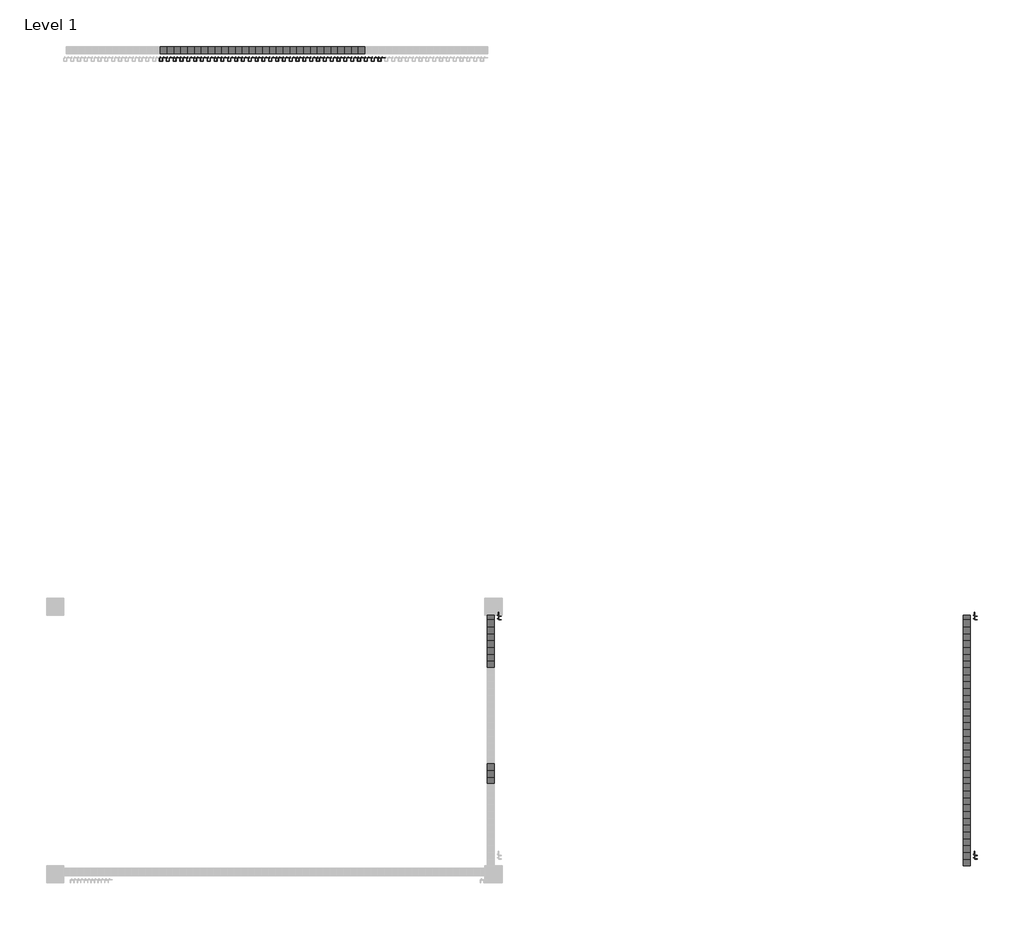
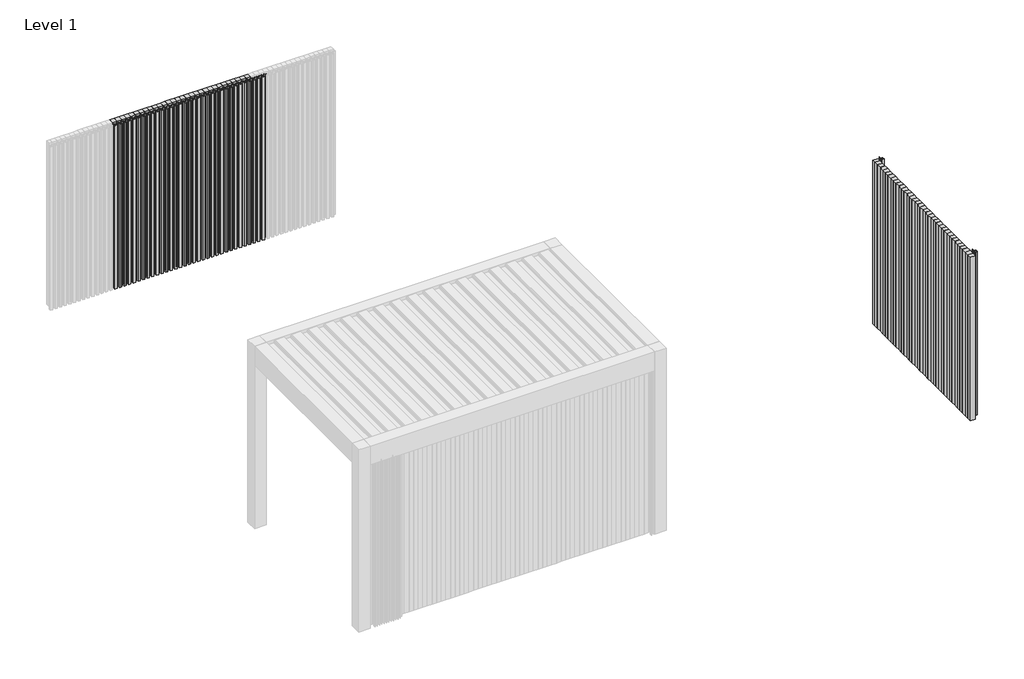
# One storey, part 3 of 69: 78 plates, 36 members.
"""IFC4 building model written with IfcOpenShell, lengths in millimetres."""

from ifc_helpers import new_model, si_unit, origin, origin_with_axes, place, context, project, spatial, polyline, outline, extrude, transform, mapped, element, save
from components import rectangular_mullion_72383e52, rectangular_mullion_a288ed38

model = new_model("IFC4")

# Units and contexts
model_context = context("Model", 3, world=origin())
ifc_project = project(units=[si_unit("LENGTHUNIT", "METRE", prefix="MILLI")], contexts=[model_context])

# Site, building, storey
site = spatial("IfcSite", under=ifc_project)
building = spatial("IfcBuilding", under=site)
storey = spatial("IfcBuildingStorey", under=building, Name="Level 1", Elevation=0.0)

# Members
placement = place(None, origin())
rectangular_mullion_shape = rectangular_mullion_72383e52(model_context)
element("IfcMember", 1, ObjectType="Rectangular Mullion : Renson_Linarte_LA-B30-01", at=placement, inside=storey, context=model_context, shape_type="MappedRepresentation", body=[
    mapped(rectangular_mullion_shape, transform((208510.5749423, 15422.7652501, 0.0), x_axis=(-1.0, 0.0, 0.0), y_axis=(0.0, 1.0, 0.0), z_axis=(0.0, 0.0, -1.0))),
])
element("IfcMember", 2, ObjectType="Rectangular Mullion : Renson_Linarte_LA-B30-01", at=placement, inside=storey, context=model_context, shape_type="MappedRepresentation", body=[
    mapped(rectangular_mullion_shape, transform((208450.5749423, 15422.7652501, 0.0), x_axis=(-1.0, 0.0, 0.0), y_axis=(0.0, 1.0, 0.0), z_axis=(0.0, 0.0, -1.0))),
])
element("IfcMember", 3, ObjectType="Rectangular Mullion : Renson_Linarte_LA-B30-01", at=placement, inside=storey, context=model_context, shape_type="MappedRepresentation", body=[
    mapped(rectangular_mullion_shape, transform((208390.5749423, 15422.7652501, 0.0), x_axis=(-1.0, 0.0, 0.0), y_axis=(0.0, 1.0, 0.0), z_axis=(0.0, 0.0, -1.0))),
])
element("IfcMember", 4, ObjectType="Rectangular Mullion : Renson_Linarte_LA-B30-01", at=placement, inside=storey, context=model_context, shape_type="MappedRepresentation", body=[
    mapped(rectangular_mullion_shape, transform((208330.5749423, 15422.7652501, 0.0), x_axis=(-1.0, 0.0, 0.0), y_axis=(0.0, 1.0, 0.0), z_axis=(0.0, 0.0, -1.0))),
])
element("IfcMember", 5, ObjectType="Rectangular Mullion : Renson_Linarte_LA-B30-01", at=placement, inside=storey, context=model_context, shape_type="MappedRepresentation", body=[
    mapped(rectangular_mullion_shape, transform((208270.5749423, 15422.7652501, 0.0), x_axis=(-1.0, 0.0, 0.0), y_axis=(0.0, 1.0, 0.0), z_axis=(0.0, 0.0, -1.0))),
])
element("IfcMember", 6, ObjectType="Rectangular Mullion : Renson_Linarte_LA-B30-01", at=placement, inside=storey, context=model_context, shape_type="MappedRepresentation", body=[
    mapped(rectangular_mullion_shape, transform((208210.5749423, 15422.7652501, 0.0), x_axis=(-1.0, 0.0, 0.0), y_axis=(0.0, 1.0, 0.0), z_axis=(0.0, 0.0, -1.0))),
])
element("IfcMember", 7, ObjectType="Rectangular Mullion : Renson_Linarte_LA-B30-01", at=placement, inside=storey, context=model_context, shape_type="MappedRepresentation", body=[
    mapped(rectangular_mullion_shape, transform((208150.5749423, 15422.7652501, 0.0), x_axis=(-1.0, 0.0, 0.0), y_axis=(0.0, 1.0, 0.0), z_axis=(0.0, 0.0, -1.0))),
])
element("IfcMember", 8, ObjectType="Rectangular Mullion : Renson_Linarte_LA-B30-01", at=placement, inside=storey, context=model_context, shape_type="MappedRepresentation", body=[
    mapped(rectangular_mullion_shape, transform((208090.5749423, 15422.7652501, 0.0), x_axis=(-1.0, 0.0, 0.0), y_axis=(0.0, 1.0, 0.0), z_axis=(0.0, 0.0, -1.0))),
])
element("IfcMember", 9, ObjectType="Rectangular Mullion : Renson_Linarte_LA-B30-01", at=placement, inside=storey, context=model_context, shape_type="MappedRepresentation", body=[
    mapped(rectangular_mullion_shape, transform((208030.5749423, 15422.7652501, 0.0), x_axis=(-1.0, 0.0, 0.0), y_axis=(0.0, 1.0, 0.0), z_axis=(0.0, 0.0, -1.0))),
])
element("IfcMember", 10, ObjectType="Rectangular Mullion : Renson_Linarte_LA-B30-01", at=placement, inside=storey, context=model_context, shape_type="MappedRepresentation", body=[
    mapped(rectangular_mullion_shape, transform((208570.5749423, 15422.7652501, 0.0), x_axis=(-1.0, 0.0, 0.0), y_axis=(0.0, 1.0, 0.0), z_axis=(0.0, 0.0, -1.0))),
])
element("IfcMember", 11, ObjectType="Rectangular Mullion : Renson_Linarte_LA-B30-01", at=placement, inside=storey, context=model_context, shape_type="MappedRepresentation", body=[
    mapped(rectangular_mullion_shape, transform((208630.5749423, 15422.7652501, 0.0), x_axis=(-1.0, 0.0, 0.0), y_axis=(0.0, 1.0, 0.0), z_axis=(0.0, 0.0, -1.0))),
])
element("IfcMember", 12, ObjectType="Rectangular Mullion : Renson_Linarte_LA-B30-01", at=placement, inside=storey, context=model_context, shape_type="MappedRepresentation", body=[
    mapped(rectangular_mullion_shape, transform((208690.5749423, 15422.7652501, 0.0), x_axis=(-1.0, 0.0, 0.0), y_axis=(0.0, 1.0, 0.0), z_axis=(0.0, 0.0, -1.0))),
])
element("IfcMember", 13, ObjectType="Rectangular Mullion : Renson_Linarte_LA-B30-01", at=placement, inside=storey, context=model_context, shape_type="MappedRepresentation", body=[
    mapped(rectangular_mullion_shape, transform((208750.5749423, 15422.7652501, 0.0), x_axis=(-1.0, 0.0, 0.0), y_axis=(0.0, 1.0, 0.0), z_axis=(0.0, 0.0, -1.0))),
])
element("IfcMember", 14, ObjectType="Rectangular Mullion : Renson_Linarte_LA-B30-01", at=placement, inside=storey, context=model_context, shape_type="MappedRepresentation", body=[
    mapped(rectangular_mullion_shape, transform((208810.5749423, 15422.7652501, 0.0), x_axis=(-1.0, 0.0, 0.0), y_axis=(0.0, 1.0, 0.0), z_axis=(0.0, 0.0, -1.0))),
])
element("IfcMember", 15, ObjectType="Rectangular Mullion : Renson_Linarte_LA-B30-01", at=placement, inside=storey, context=model_context, shape_type="MappedRepresentation", body=[
    mapped(rectangular_mullion_shape, transform((208870.5749423, 15422.7652501, 0.0), x_axis=(-1.0, 0.0, 0.0), y_axis=(0.0, 1.0, 0.0), z_axis=(0.0, 0.0, -1.0))),
])
element("IfcMember", 16, ObjectType="Rectangular Mullion : Renson_Linarte_LA-B30-01", at=placement, inside=storey, context=model_context, shape_type="MappedRepresentation", body=[
    mapped(rectangular_mullion_shape, transform((208930.5749423, 15422.7652501, 0.0), x_axis=(-1.0, 0.0, 0.0), y_axis=(0.0, 1.0, 0.0), z_axis=(0.0, 0.0, -1.0))),
])
element("IfcMember", 17, ObjectType="Rectangular Mullion : Renson_Linarte_LA-B30-01", at=placement, inside=storey, context=model_context, shape_type="MappedRepresentation", body=[
    mapped(rectangular_mullion_shape, transform((208990.5749423, 15422.7652501, 0.0), x_axis=(-1.0, 0.0, 0.0), y_axis=(0.0, 1.0, 0.0), z_axis=(0.0, 0.0, -1.0))),
])
element("IfcMember", 18, ObjectType="Rectangular Mullion : Renson_Linarte_LA-B30-01", at=placement, inside=storey, context=model_context, shape_type="MappedRepresentation", body=[
    mapped(rectangular_mullion_shape, transform((209050.5749423, 15422.7652501, 0.0), x_axis=(-1.0, 0.0, 0.0), y_axis=(0.0, 1.0, 0.0), z_axis=(0.0, 0.0, -1.0))),
])
element("IfcMember", 19, ObjectType="Rectangular Mullion : Renson_Linarte_LA-B30-01", at=placement, inside=storey, context=model_context, shape_type="MappedRepresentation", body=[
    mapped(rectangular_mullion_shape, transform((209110.5749423, 15422.7652501, 0.0), x_axis=(-1.0, 0.0, 0.0), y_axis=(0.0, 1.0, 0.0), z_axis=(0.0, 0.0, -1.0))),
])
element("IfcMember", 20, ObjectType="Rectangular Mullion : Renson_Linarte_LA-B30-01", at=placement, inside=storey, context=model_context, shape_type="MappedRepresentation", body=[
    mapped(rectangular_mullion_shape, transform((209170.5749423, 15422.7652501, 0.0), x_axis=(-1.0, 0.0, 0.0), y_axis=(0.0, 1.0, 0.0), z_axis=(0.0, 0.0, -1.0))),
])
element("IfcMember", 21, ObjectType="Rectangular Mullion : Renson_Linarte_LA-B30-01", at=placement, inside=storey, context=model_context, shape_type="MappedRepresentation", body=[
    mapped(rectangular_mullion_shape, transform((209230.5749423, 15422.7652501, 0.0), x_axis=(-1.0, 0.0, 0.0), y_axis=(0.0, 1.0, 0.0), z_axis=(0.0, 0.0, -1.0))),
])
element("IfcMember", 22, ObjectType="Rectangular Mullion : Renson_Linarte_LA-B30-01", at=placement, inside=storey, context=model_context, shape_type="MappedRepresentation", body=[
    mapped(rectangular_mullion_shape, transform((209290.5749423, 15422.7652501, 0.0), x_axis=(-1.0, 0.0, 0.0), y_axis=(0.0, 1.0, 0.0), z_axis=(0.0, 0.0, -1.0))),
])
element("IfcMember", 23, ObjectType="Rectangular Mullion : Renson_Linarte_LA-B30-01", at=placement, inside=storey, context=model_context, shape_type="MappedRepresentation", body=[
    mapped(rectangular_mullion_shape, transform((209350.5749423, 15422.7652501, 0.0), x_axis=(-1.0, 0.0, 0.0), y_axis=(0.0, 1.0, 0.0), z_axis=(0.0, 0.0, -1.0))),
])
element("IfcMember", 24, ObjectType="Rectangular Mullion : Renson_Linarte_LA-B30-01", at=placement, inside=storey, context=model_context, shape_type="MappedRepresentation", body=[
    mapped(rectangular_mullion_shape, transform((209410.5749423, 15422.7652501, 0.0), x_axis=(-1.0, 0.0, 0.0), y_axis=(0.0, 1.0, 0.0), z_axis=(0.0, 0.0, -1.0))),
])
element("IfcMember", 25, ObjectType="Rectangular Mullion : Renson_Linarte_LA-B30-01", at=placement, inside=storey, context=model_context, shape_type="MappedRepresentation", body=[
    mapped(rectangular_mullion_shape, transform((209470.5749423, 15422.7652501, 0.0), x_axis=(-1.0, 0.0, 0.0), y_axis=(0.0, 1.0, 0.0), z_axis=(0.0, 0.0, -1.0))),
])
element("IfcMember", 26, ObjectType="Rectangular Mullion : Renson_Linarte_LA-B30-01", at=placement, inside=storey, context=model_context, shape_type="MappedRepresentation", body=[
    mapped(rectangular_mullion_shape, transform((209530.5749423, 15422.7652501, 0.0), x_axis=(-1.0, 0.0, 0.0), y_axis=(0.0, 1.0, 0.0), z_axis=(0.0, 0.0, -1.0))),
])
element("IfcMember", 27, ObjectType="Rectangular Mullion : Renson_Linarte_LA-B30-01", at=placement, inside=storey, context=model_context, shape_type="MappedRepresentation", body=[
    mapped(rectangular_mullion_shape, transform((209590.5749423, 15422.7652501, 0.0), x_axis=(-1.0, 0.0, 0.0), y_axis=(0.0, 1.0, 0.0), z_axis=(0.0, 0.0, -1.0))),
])
element("IfcMember", 28, ObjectType="Rectangular Mullion : Renson_Linarte_LA-B30-01", at=placement, inside=storey, context=model_context, shape_type="MappedRepresentation", body=[
    mapped(rectangular_mullion_shape, transform((209650.5749423, 15422.7652501, 0.0), x_axis=(-1.0, 0.0, 0.0), y_axis=(0.0, 1.0, 0.0), z_axis=(0.0, 0.0, -1.0))),
])
element("IfcMember", 29, ObjectType="Rectangular Mullion : Renson_Linarte_LA-B30-01", at=placement, inside=storey, context=model_context, shape_type="MappedRepresentation", body=[
    mapped(rectangular_mullion_shape, transform((209710.5749423, 15422.7652501, 0.0), x_axis=(-1.0, 0.0, 0.0), y_axis=(0.0, 1.0, 0.0), z_axis=(0.0, 0.0, -1.0))),
])
element("IfcMember", 30, ObjectType="Rectangular Mullion : Renson_Linarte_LA-B30-01", at=placement, inside=storey, context=model_context, shape_type="MappedRepresentation", body=[
    mapped(rectangular_mullion_shape, transform((209770.5749423, 15422.7652501, 0.0), x_axis=(-1.0, 0.0, 0.0), y_axis=(0.0, 1.0, 0.0), z_axis=(0.0, 0.0, -1.0))),
])
element("IfcMember", 31, ObjectType="Rectangular Mullion : Renson_Linarte_LA-B30-01", at=placement, inside=storey, context=model_context, shape_type="MappedRepresentation", body=[
    mapped(rectangular_mullion_shape, transform((209830.5749423, 15422.7652501, 0.0), x_axis=(-1.0, 0.0, 0.0), y_axis=(0.0, 1.0, 0.0), z_axis=(0.0, 0.0, -1.0))),
])
element("IfcMember", 32, ObjectType="Rectangular Mullion : Renson_Linarte_LA-B30-01", at=placement, inside=storey, context=model_context, shape_type="MappedRepresentation", body=[
    mapped(rectangular_mullion_shape, transform((209890.5749423, 15422.7652501, 0.0), x_axis=(-1.0, 0.0, 0.0), y_axis=(0.0, 1.0, 0.0), z_axis=(0.0, 0.0, -1.0))),
])
element("IfcMember", 33, ObjectType="Rectangular Mullion : Renson_Linarte_LA-B30-01", at=placement, inside=storey, context=model_context, shape_type="MappedRepresentation", body=[
    mapped(rectangular_mullion_shape, transform((209950.5749423, 15422.7652501, 0.0), x_axis=(-1.0, 0.0, 0.0), y_axis=(0.0, 1.0, 0.0), z_axis=(0.0, 0.0, -1.0))),
])
rectangular_mullion_2_shape = rectangular_mullion_a288ed38(model_context)
element("IfcMember", 34, ObjectType="Rectangular Mullion : Renson_Linarte_LA-E25-01", at=placement, inside=storey, context=model_context, shape_type="MappedRepresentation", body=[
    mapped(rectangular_mullion_2_shape, transform((215057.0900207, 10419.7218195, 0.0), x_axis=(0.0, 1.0, 0.0), y_axis=(1.0, 0.0, 0.0), z_axis=(0.0, 0.0, -1.0))),
])
element("IfcMember", 35, ObjectType="Rectangular Mullion : Renson_Linarte_LA-E25-01", at=placement, inside=storey, context=model_context, shape_type="MappedRepresentation", body=[
    mapped(rectangular_mullion_2_shape, transform((215057.0900207, 8319.7218195, 0.0), x_axis=(0.0, 1.0, 0.0), y_axis=(1.0, 0.0, 0.0), z_axis=(0.0, 0.0, -1.0))),
])
element("IfcMember", 36, ObjectType="Rectangular Mullion : Renson_Linarte_LA-E25-01", at=placement, inside=storey, context=model_context, shape_type="MappedRepresentation", body=[
    mapped(rectangular_mullion_2_shape, transform((210877.0900207, 10419.7218195, 0.0), x_axis=(0.0, 1.0, 0.0), y_axis=(1.0, 0.0, 0.0), z_axis=(0.0, 0.0, -1.0))),
])

# Plates
element("IfcPlate", 37, ObjectType="Base - 64mm", at=placement, inside=storey, context=model_context, shape_type="SweptSolid", body=[
    extrude(outline(polyline([(207970.5749423, 15454.7652501), (208030.5749423, 15454.7652501), (208030.5749423, 15390.7652501), (207970.5749423, 15390.7652501), (207970.5749423, 15454.7652501)])), origin_with_axes(), (0.0, 0.0, 1.0), 2250.0),
])
element("IfcPlate", 38, ObjectType="Base - 64mm", at=placement, inside=storey, context=model_context, shape_type="SweptSolid", body=[
    extrude(outline(polyline([(208030.5749423, 15454.7652501), (208090.5749423, 15454.7652501), (208090.5749423, 15390.7652501), (208030.5749423, 15390.7652501), (208030.5749423, 15454.7652501)])), origin_with_axes(), (0.0, 0.0, 1.0), 2250.0),
])
element("IfcPlate", 39, ObjectType="Base - 64mm", at=placement, inside=storey, context=model_context, shape_type="SweptSolid", body=[
    extrude(outline(polyline([(208090.5749423, 15454.7652501), (208150.5749423, 15454.7652501), (208150.5749423, 15390.7652501), (208090.5749423, 15390.7652501), (208090.5749423, 15454.7652501)])), origin_with_axes(), (0.0, 0.0, 1.0), 2250.0),
])
element("IfcPlate", 40, ObjectType="Base - 64mm", at=placement, inside=storey, context=model_context, shape_type="SweptSolid", body=[
    extrude(outline(polyline([(208150.5749423, 15454.7652501), (208210.5749423, 15454.7652501), (208210.5749423, 15390.7652501), (208150.5749423, 15390.7652501), (208150.5749423, 15454.7652501)])), origin_with_axes(), (0.0, 0.0, 1.0), 2250.0),
])
element("IfcPlate", 41, ObjectType="Base - 64mm", at=placement, inside=storey, context=model_context, shape_type="SweptSolid", body=[
    extrude(outline(polyline([(208210.5749423, 15454.7652501), (208270.5749423, 15454.7652501), (208270.5749423, 15390.7652501), (208210.5749423, 15390.7652501), (208210.5749423, 15454.7652501)])), origin_with_axes(), (0.0, 0.0, 1.0), 2250.0),
])
element("IfcPlate", 42, ObjectType="Base - 64mm", at=placement, inside=storey, context=model_context, shape_type="SweptSolid", body=[
    extrude(outline(polyline([(208270.5749423, 15454.7652501), (208330.5749423, 15454.7652501), (208330.5749423, 15390.7652501), (208270.5749423, 15390.7652501), (208270.5749423, 15454.7652501)])), origin_with_axes(), (0.0, 0.0, 1.0), 2250.0),
])
element("IfcPlate", 43, ObjectType="Base - 64mm", at=placement, inside=storey, context=model_context, shape_type="SweptSolid", body=[
    extrude(outline(polyline([(208330.5749423, 15454.7652501), (208390.5749423, 15454.7652501), (208390.5749423, 15390.7652501), (208330.5749423, 15390.7652501), (208330.5749423, 15454.7652501)])), origin_with_axes(), (0.0, 0.0, 1.0), 2250.0),
])
element("IfcPlate", 44, ObjectType="Base - 64mm", at=placement, inside=storey, context=model_context, shape_type="SweptSolid", body=[
    extrude(outline(polyline([(208390.5749423, 15454.7652501), (208450.5749423, 15454.7652501), (208450.5749423, 15390.7652501), (208390.5749423, 15390.7652501), (208390.5749423, 15454.7652501)])), origin_with_axes(), (0.0, 0.0, 1.0), 2250.0),
])
element("IfcPlate", 45, ObjectType="Base - 64mm", at=placement, inside=storey, context=model_context, shape_type="SweptSolid", body=[
    extrude(outline(polyline([(208450.5749423, 15454.7652501), (208510.5749423, 15454.7652501), (208510.5749423, 15390.7652501), (208450.5749423, 15390.7652501), (208450.5749423, 15454.7652501)])), origin_with_axes(), (0.0, 0.0, 1.0), 2250.0),
])
element("IfcPlate", 46, ObjectType="Base - 64mm", at=placement, inside=storey, context=model_context, shape_type="SweptSolid", body=[
    extrude(outline(polyline([(208510.5749423, 15454.7652501), (208570.5749423, 15454.7652501), (208570.5749423, 15390.7652501), (208510.5749423, 15390.7652501), (208510.5749423, 15454.7652501)])), origin_with_axes(), (0.0, 0.0, 1.0), 2250.0),
])
element("IfcPlate", 47, ObjectType="Base - 64mm", at=placement, inside=storey, context=model_context, shape_type="SweptSolid", body=[
    extrude(outline(polyline([(208570.5749423, 15454.7652501), (208630.5749423, 15454.7652501), (208630.5749423, 15390.7652501), (208570.5749423, 15390.7652501), (208570.5749423, 15454.7652501)])), origin_with_axes(), (0.0, 0.0, 1.0), 2250.0),
])
element("IfcPlate", 48, ObjectType="Base - 64mm", at=placement, inside=storey, context=model_context, shape_type="SweptSolid", body=[
    extrude(outline(polyline([(208630.5749423, 15454.7652501), (208690.5749423, 15454.7652501), (208690.5749423, 15390.7652501), (208630.5749423, 15390.7652501), (208630.5749423, 15454.7652501)])), origin_with_axes(), (0.0, 0.0, 1.0), 2250.0),
])
element("IfcPlate", 49, ObjectType="Base - 64mm", at=placement, inside=storey, context=model_context, shape_type="SweptSolid", body=[
    extrude(outline(polyline([(208690.5749423, 15454.7652501), (208750.5749423, 15454.7652501), (208750.5749423, 15390.7652501), (208690.5749423, 15390.7652501), (208690.5749423, 15454.7652501)])), origin_with_axes(), (0.0, 0.0, 1.0), 2250.0),
])
element("IfcPlate", 50, ObjectType="Base - 64mm", at=placement, inside=storey, context=model_context, shape_type="SweptSolid", body=[
    extrude(outline(polyline([(208750.5749423, 15454.7652501), (208810.5749423, 15454.7652501), (208810.5749423, 15390.7652501), (208750.5749423, 15390.7652501), (208750.5749423, 15454.7652501)])), origin_with_axes(), (0.0, 0.0, 1.0), 2250.0),
])
element("IfcPlate", 51, ObjectType="Base - 64mm", at=placement, inside=storey, context=model_context, shape_type="SweptSolid", body=[
    extrude(outline(polyline([(208810.5749423, 15454.7652501), (208870.5749423, 15454.7652501), (208870.5749423, 15390.7652501), (208810.5749423, 15390.7652501), (208810.5749423, 15454.7652501)])), origin_with_axes(), (0.0, 0.0, 1.0), 2250.0),
])
element("IfcPlate", 52, ObjectType="Base - 64mm", at=placement, inside=storey, context=model_context, shape_type="SweptSolid", body=[
    extrude(outline(polyline([(208870.5749423, 15454.7652501), (208930.5749423, 15454.7652501), (208930.5749423, 15390.7652501), (208870.5749423, 15390.7652501), (208870.5749423, 15454.7652501)])), origin_with_axes(), (0.0, 0.0, 1.0), 2250.0),
])
element("IfcPlate", 53, ObjectType="Base - 64mm", at=placement, inside=storey, context=model_context, shape_type="SweptSolid", body=[
    extrude(outline(polyline([(208930.5749423, 15454.7652501), (208990.5749423, 15454.7652501), (208990.5749423, 15390.7652501), (208930.5749423, 15390.7652501), (208930.5749423, 15454.7652501)])), origin_with_axes(), (0.0, 0.0, 1.0), 2250.0),
])
element("IfcPlate", 54, ObjectType="Base - 64mm", at=placement, inside=storey, context=model_context, shape_type="SweptSolid", body=[
    extrude(outline(polyline([(208990.5749423, 15454.7652501), (209050.5749423, 15454.7652501), (209050.5749423, 15390.7652501), (208990.5749423, 15390.7652501), (208990.5749423, 15454.7652501)])), origin_with_axes(), (0.0, 0.0, 1.0), 2250.0),
])
element("IfcPlate", 55, ObjectType="Base - 64mm", at=placement, inside=storey, context=model_context, shape_type="SweptSolid", body=[
    extrude(outline(polyline([(209050.5749423, 15454.7652501), (209110.5749423, 15454.7652501), (209110.5749423, 15390.7652501), (209050.5749423, 15390.7652501), (209050.5749423, 15454.7652501)])), origin_with_axes(), (0.0, 0.0, 1.0), 2250.0),
])
element("IfcPlate", 56, ObjectType="Base - 64mm", at=placement, inside=storey, context=model_context, shape_type="SweptSolid", body=[
    extrude(outline(polyline([(209110.5749423, 15454.7652501), (209170.5749423, 15454.7652501), (209170.5749423, 15390.7652501), (209110.5749423, 15390.7652501), (209110.5749423, 15454.7652501)])), origin_with_axes(), (0.0, 0.0, 1.0), 2250.0),
])
element("IfcPlate", 57, ObjectType="Base - 64mm", at=placement, inside=storey, context=model_context, shape_type="SweptSolid", body=[
    extrude(outline(polyline([(209170.5749423, 15454.7652501), (209230.5749423, 15454.7652501), (209230.5749423, 15390.7652501), (209170.5749423, 15390.7652501), (209170.5749423, 15454.7652501)])), origin_with_axes(), (0.0, 0.0, 1.0), 2250.0),
])
element("IfcPlate", 58, ObjectType="Base - 64mm", at=placement, inside=storey, context=model_context, shape_type="SweptSolid", body=[
    extrude(outline(polyline([(209230.5749423, 15454.7652501), (209290.5749423, 15454.7652501), (209290.5749423, 15390.7652501), (209230.5749423, 15390.7652501), (209230.5749423, 15454.7652501)])), origin_with_axes(), (0.0, 0.0, 1.0), 2250.0),
])
element("IfcPlate", 59, ObjectType="Base - 64mm", at=placement, inside=storey, context=model_context, shape_type="SweptSolid", body=[
    extrude(outline(polyline([(209290.5749423, 15454.7652501), (209350.5749423, 15454.7652501), (209350.5749423, 15390.7652501), (209290.5749423, 15390.7652501), (209290.5749423, 15454.7652501)])), origin_with_axes(), (0.0, 0.0, 1.0), 2250.0),
])
element("IfcPlate", 60, ObjectType="Base - 64mm", at=placement, inside=storey, context=model_context, shape_type="SweptSolid", body=[
    extrude(outline(polyline([(209350.5749423, 15454.7652501), (209410.5749423, 15454.7652501), (209410.5749423, 15390.7652501), (209350.5749423, 15390.7652501), (209350.5749423, 15454.7652501)])), origin_with_axes(), (0.0, 0.0, 1.0), 2250.0),
])
element("IfcPlate", 61, ObjectType="Base - 64mm", at=placement, inside=storey, context=model_context, shape_type="SweptSolid", body=[
    extrude(outline(polyline([(209410.5749423, 15454.7652501), (209470.5749423, 15454.7652501), (209470.5749423, 15390.7652501), (209410.5749423, 15390.7652501), (209410.5749423, 15454.7652501)])), origin_with_axes(), (0.0, 0.0, 1.0), 2250.0),
])
element("IfcPlate", 62, ObjectType="Base - 64mm", at=placement, inside=storey, context=model_context, shape_type="SweptSolid", body=[
    extrude(outline(polyline([(209470.5749423, 15454.7652501), (209530.5749423, 15454.7652501), (209530.5749423, 15390.7652501), (209470.5749423, 15390.7652501), (209470.5749423, 15454.7652501)])), origin_with_axes(), (0.0, 0.0, 1.0), 2250.0),
])
element("IfcPlate", 63, ObjectType="Base - 64mm", at=placement, inside=storey, context=model_context, shape_type="SweptSolid", body=[
    extrude(outline(polyline([(209530.5749423, 15454.7652501), (209590.5749423, 15454.7652501), (209590.5749423, 15390.7652501), (209530.5749423, 15390.7652501), (209530.5749423, 15454.7652501)])), origin_with_axes(), (0.0, 0.0, 1.0), 2250.0),
])
element("IfcPlate", 64, ObjectType="Base - 64mm", at=placement, inside=storey, context=model_context, shape_type="SweptSolid", body=[
    extrude(outline(polyline([(209590.5749423, 15454.7652501), (209650.5749423, 15454.7652501), (209650.5749423, 15390.7652501), (209590.5749423, 15390.7652501), (209590.5749423, 15454.7652501)])), origin_with_axes(), (0.0, 0.0, 1.0), 2250.0),
])
element("IfcPlate", 65, ObjectType="Base - 64mm", at=placement, inside=storey, context=model_context, shape_type="SweptSolid", body=[
    extrude(outline(polyline([(209650.5749423, 15454.7652501), (209710.5749423, 15454.7652501), (209710.5749423, 15390.7652501), (209650.5749423, 15390.7652501), (209650.5749423, 15454.7652501)])), origin_with_axes(), (0.0, 0.0, 1.0), 2250.0),
])
element("IfcPlate", 66, ObjectType="Base - 64mm", at=placement, inside=storey, context=model_context, shape_type="SweptSolid", body=[
    extrude(outline(polyline([(209710.5749423, 15454.7652501), (209770.5749423, 15454.7652501), (209770.5749423, 15390.7652501), (209710.5749423, 15390.7652501), (209710.5749423, 15454.7652501)])), origin_with_axes(), (0.0, 0.0, 1.0), 2250.0),
])
element("IfcPlate", 67, ObjectType="Base - 64mm", at=placement, inside=storey, context=model_context, shape_type="SweptSolid", body=[
    extrude(outline(polyline([(215089.0900207, 10419.7218195), (215089.0900207, 10359.7218195), (215025.0900207, 10359.7218195), (215025.0900207, 10419.7218195), (215089.0900207, 10419.7218195)])), origin_with_axes(), (0.0, 0.0, 1.0), 2250.0),
])
element("IfcPlate", 68, ObjectType="Base - 64mm", at=placement, inside=storey, context=model_context, shape_type="SweptSolid", body=[
    extrude(outline(polyline([(215089.0900207, 10359.7218195), (215089.0900207, 10299.7218195), (215025.0900207, 10299.7218195), (215025.0900207, 10359.7218195), (215089.0900207, 10359.7218195)])), origin_with_axes(), (0.0, 0.0, 1.0), 2250.0),
])
element("IfcPlate", 69, ObjectType="Base - 64mm", at=placement, inside=storey, context=model_context, shape_type="SweptSolid", body=[
    extrude(outline(polyline([(215089.0900207, 10299.7218195), (215089.0900207, 10239.7218195), (215025.0900207, 10239.7218195), (215025.0900207, 10299.7218195), (215089.0900207, 10299.7218195)])), origin_with_axes(), (0.0, 0.0, 1.0), 2250.0),
])
element("IfcPlate", 70, ObjectType="Base - 64mm", at=placement, inside=storey, context=model_context, shape_type="SweptSolid", body=[
    extrude(outline(polyline([(215089.0900207, 10239.7218195), (215089.0900207, 10179.7218195), (215025.0900207, 10179.7218195), (215025.0900207, 10239.7218195), (215089.0900207, 10239.7218195)])), origin_with_axes(), (0.0, 0.0, 1.0), 2250.0),
])
element("IfcPlate", 71, ObjectType="Base - 64mm", at=placement, inside=storey, context=model_context, shape_type="SweptSolid", body=[
    extrude(outline(polyline([(215089.0900207, 10179.7218195), (215089.0900207, 10119.7218195), (215025.0900207, 10119.7218195), (215025.0900207, 10179.7218195), (215089.0900207, 10179.7218195)])), origin_with_axes(), (0.0, 0.0, 1.0), 2250.0),
])
element("IfcPlate", 72, ObjectType="Base - 64mm", at=placement, inside=storey, context=model_context, shape_type="SweptSolid", body=[
    extrude(outline(polyline([(215089.0900207, 10119.7218195), (215089.0900207, 10059.7218195), (215025.0900207, 10059.7218195), (215025.0900207, 10119.7218195), (215089.0900207, 10119.7218195)])), origin_with_axes(), (0.0, 0.0, 1.0), 2250.0),
])
element("IfcPlate", 73, ObjectType="Base - 64mm", at=placement, inside=storey, context=model_context, shape_type="SweptSolid", body=[
    extrude(outline(polyline([(215089.0900207, 10059.7218195), (215089.0900207, 9999.7218195), (215025.0900207, 9999.7218195), (215025.0900207, 10059.7218195), (215089.0900207, 10059.7218195)])), origin_with_axes(), (0.0, 0.0, 1.0), 2250.0),
])
element("IfcPlate", 74, ObjectType="Base - 64mm", at=placement, inside=storey, context=model_context, shape_type="SweptSolid", body=[
    extrude(outline(polyline([(215089.0900207, 9999.7218195), (215089.0900207, 9939.7218195), (215025.0900207, 9939.7218195), (215025.0900207, 9999.7218195), (215089.0900207, 9999.7218195)])), origin_with_axes(), (0.0, 0.0, 1.0), 2250.0),
])
element("IfcPlate", 75, ObjectType="Base - 64mm", at=placement, inside=storey, context=model_context, shape_type="SweptSolid", body=[
    extrude(outline(polyline([(215089.0900207, 9939.7218195), (215089.0900207, 9879.7218195), (215025.0900207, 9879.7218195), (215025.0900207, 9939.7218195), (215089.0900207, 9939.7218195)])), origin_with_axes(), (0.0, 0.0, 1.0), 2250.0),
])
element("IfcPlate", 76, ObjectType="Base - 64mm", at=placement, inside=storey, context=model_context, shape_type="SweptSolid", body=[
    extrude(outline(polyline([(215089.0900207, 9879.7218195), (215089.0900207, 9819.7218195), (215025.0900207, 9819.7218195), (215025.0900207, 9879.7218195), (215089.0900207, 9879.7218195)])), origin_with_axes(), (0.0, 0.0, 1.0), 2250.0),
])
element("IfcPlate", 77, ObjectType="Base - 64mm", at=placement, inside=storey, context=model_context, shape_type="SweptSolid", body=[
    extrude(outline(polyline([(215089.0900207, 9819.7218195), (215089.0900207, 9759.7218195), (215025.0900207, 9759.7218195), (215025.0900207, 9819.7218195), (215089.0900207, 9819.7218195)])), origin_with_axes(), (0.0, 0.0, 1.0), 2250.0),
])
element("IfcPlate", 78, ObjectType="Base - 64mm", at=placement, inside=storey, context=model_context, shape_type="SweptSolid", body=[
    extrude(outline(polyline([(215089.0900207, 9759.7218195), (215089.0900207, 9699.7218195), (215025.0900207, 9699.7218195), (215025.0900207, 9759.7218195), (215089.0900207, 9759.7218195)])), origin_with_axes(), (0.0, 0.0, 1.0), 2250.0),
])
element("IfcPlate", 79, ObjectType="Base - 64mm", at=placement, inside=storey, context=model_context, shape_type="SweptSolid", body=[
    extrude(outline(polyline([(215089.0900207, 9699.7218195), (215089.0900207, 9639.7218195), (215025.0900207, 9639.7218195), (215025.0900207, 9699.7218195), (215089.0900207, 9699.7218195)])), origin_with_axes(), (0.0, 0.0, 1.0), 2250.0),
])
element("IfcPlate", 80, ObjectType="Base - 64mm", at=placement, inside=storey, context=model_context, shape_type="SweptSolid", body=[
    extrude(outline(polyline([(215089.0900207, 9639.7218195), (215089.0900207, 9579.7218195), (215025.0900207, 9579.7218195), (215025.0900207, 9639.7218195), (215089.0900207, 9639.7218195)])), origin_with_axes(), (0.0, 0.0, 1.0), 2250.0),
])
element("IfcPlate", 81, ObjectType="Base - 64mm", at=placement, inside=storey, context=model_context, shape_type="SweptSolid", body=[
    extrude(outline(polyline([(215089.0900207, 9579.7218195), (215089.0900207, 9519.7218195), (215025.0900207, 9519.7218195), (215025.0900207, 9579.7218195), (215089.0900207, 9579.7218195)])), origin_with_axes(), (0.0, 0.0, 1.0), 2250.0),
])
element("IfcPlate", 82, ObjectType="Base - 64mm", at=placement, inside=storey, context=model_context, shape_type="SweptSolid", body=[
    extrude(outline(polyline([(215089.0900207, 9519.7218195), (215089.0900207, 9459.7218195), (215025.0900207, 9459.7218195), (215025.0900207, 9519.7218195), (215089.0900207, 9519.7218195)])), origin_with_axes(), (0.0, 0.0, 1.0), 2250.0),
])
element("IfcPlate", 83, ObjectType="Base - 64mm", at=placement, inside=storey, context=model_context, shape_type="SweptSolid", body=[
    extrude(outline(polyline([(215089.0900207, 9459.7218195), (215089.0900207, 9399.7218195), (215025.0900207, 9399.7218195), (215025.0900207, 9459.7218195), (215089.0900207, 9459.7218195)])), origin_with_axes(), (0.0, 0.0, 1.0), 2250.0),
])
element("IfcPlate", 84, ObjectType="Base - 64mm", at=placement, inside=storey, context=model_context, shape_type="SweptSolid", body=[
    extrude(outline(polyline([(215089.0900207, 9399.7218195), (215089.0900207, 9339.7218195), (215025.0900207, 9339.7218195), (215025.0900207, 9399.7218195), (215089.0900207, 9399.7218195)])), origin_with_axes(), (0.0, 0.0, 1.0), 2250.0),
])
element("IfcPlate", 85, ObjectType="Base - 64mm", at=placement, inside=storey, context=model_context, shape_type="SweptSolid", body=[
    extrude(outline(polyline([(215089.0900207, 9339.7218195), (215089.0900207, 9279.7218195), (215025.0900207, 9279.7218195), (215025.0900207, 9339.7218195), (215089.0900207, 9339.7218195)])), origin_with_axes(), (0.0, 0.0, 1.0), 2250.0),
])
element("IfcPlate", 86, ObjectType="Base - 64mm", at=placement, inside=storey, context=model_context, shape_type="SweptSolid", body=[
    extrude(outline(polyline([(215089.0900207, 9279.7218195), (215089.0900207, 9219.7218195), (215025.0900207, 9219.7218195), (215025.0900207, 9279.7218195), (215089.0900207, 9279.7218195)])), origin_with_axes(), (0.0, 0.0, 1.0), 2250.0),
])
element("IfcPlate", 87, ObjectType="Base - 64mm", at=placement, inside=storey, context=model_context, shape_type="SweptSolid", body=[
    extrude(outline(polyline([(215089.0900207, 9219.7218195), (215089.0900207, 9159.7218195), (215025.0900207, 9159.7218195), (215025.0900207, 9219.7218195), (215089.0900207, 9219.7218195)])), origin_with_axes(), (0.0, 0.0, 1.0), 2250.0),
])
element("IfcPlate", 88, ObjectType="Base - 64mm", at=placement, inside=storey, context=model_context, shape_type="SweptSolid", body=[
    extrude(outline(polyline([(215089.0900207, 9159.7218195), (215089.0900207, 9099.7218195), (215025.0900207, 9099.7218195), (215025.0900207, 9159.7218195), (215089.0900207, 9159.7218195)])), origin_with_axes(), (0.0, 0.0, 1.0), 2250.0),
])
element("IfcPlate", 89, ObjectType="Base - 64mm", at=placement, inside=storey, context=model_context, shape_type="SweptSolid", body=[
    extrude(outline(polyline([(215089.0900207, 9099.7218195), (215089.0900207, 9039.7218195), (215025.0900207, 9039.7218195), (215025.0900207, 9099.7218195), (215089.0900207, 9099.7218195)])), origin_with_axes(), (0.0, 0.0, 1.0), 2250.0),
])
element("IfcPlate", 90, ObjectType="Base - 64mm", at=placement, inside=storey, context=model_context, shape_type="SweptSolid", body=[
    extrude(outline(polyline([(215089.0900207, 9039.7218195), (215089.0900207, 8979.7218195), (215025.0900207, 8979.7218195), (215025.0900207, 9039.7218195), (215089.0900207, 9039.7218195)])), origin_with_axes(), (0.0, 0.0, 1.0), 2250.0),
])
element("IfcPlate", 91, ObjectType="Base - 64mm", at=placement, inside=storey, context=model_context, shape_type="SweptSolid", body=[
    extrude(outline(polyline([(215089.0900207, 8979.7218195), (215089.0900207, 8919.7218195), (215025.0900207, 8919.7218195), (215025.0900207, 8979.7218195), (215089.0900207, 8979.7218195)])), origin_with_axes(), (0.0, 0.0, 1.0), 2250.0),
])
element("IfcPlate", 92, ObjectType="Base - 64mm", at=placement, inside=storey, context=model_context, shape_type="SweptSolid", body=[
    extrude(outline(polyline([(215089.0900207, 8919.7218195), (215089.0900207, 8859.7218195), (215025.0900207, 8859.7218195), (215025.0900207, 8919.7218195), (215089.0900207, 8919.7218195)])), origin_with_axes(), (0.0, 0.0, 1.0), 2250.0),
])
element("IfcPlate", 93, ObjectType="Base - 64mm", at=placement, inside=storey, context=model_context, shape_type="SweptSolid", body=[
    extrude(outline(polyline([(215089.0900207, 8859.7218195), (215089.0900207, 8799.7218195), (215025.0900207, 8799.7218195), (215025.0900207, 8859.7218195), (215089.0900207, 8859.7218195)])), origin_with_axes(), (0.0, 0.0, 1.0), 2250.0),
])
element("IfcPlate", 94, ObjectType="Base - 64mm", at=placement, inside=storey, context=model_context, shape_type="SweptSolid", body=[
    extrude(outline(polyline([(215089.0900207, 8799.7218195), (215089.0900207, 8739.7218195), (215025.0900207, 8739.7218195), (215025.0900207, 8799.7218195), (215089.0900207, 8799.7218195)])), origin_with_axes(), (0.0, 0.0, 1.0), 2250.0),
])
element("IfcPlate", 95, ObjectType="Base - 64mm", at=placement, inside=storey, context=model_context, shape_type="SweptSolid", body=[
    extrude(outline(polyline([(215089.0900207, 8739.7218195), (215089.0900207, 8679.7218195), (215025.0900207, 8679.7218195), (215025.0900207, 8739.7218195), (215089.0900207, 8739.7218195)])), origin_with_axes(), (0.0, 0.0, 1.0), 2250.0),
])
element("IfcPlate", 96, ObjectType="Base - 64mm", at=placement, inside=storey, context=model_context, shape_type="SweptSolid", body=[
    extrude(outline(polyline([(215089.0900207, 8679.7218195), (215089.0900207, 8619.7218195), (215025.0900207, 8619.7218195), (215025.0900207, 8679.7218195), (215089.0900207, 8679.7218195)])), origin_with_axes(), (0.0, 0.0, 1.0), 2250.0),
])
element("IfcPlate", 97, ObjectType="Base - 64mm", at=placement, inside=storey, context=model_context, shape_type="SweptSolid", body=[
    extrude(outline(polyline([(215089.0900207, 8619.7218195), (215089.0900207, 8559.7218195), (215025.0900207, 8559.7218195), (215025.0900207, 8619.7218195), (215089.0900207, 8619.7218195)])), origin_with_axes(), (0.0, 0.0, 1.0), 2250.0),
])
element("IfcPlate", 98, ObjectType="Base - 64mm", at=placement, inside=storey, context=model_context, shape_type="SweptSolid", body=[
    extrude(outline(polyline([(215089.0900207, 8559.7218195), (215089.0900207, 8499.7218195), (215025.0900207, 8499.7218195), (215025.0900207, 8559.7218195), (215089.0900207, 8559.7218195)])), origin_with_axes(), (0.0, 0.0, 1.0), 2250.0),
])
element("IfcPlate", 99, ObjectType="Base - 64mm", at=placement, inside=storey, context=model_context, shape_type="SweptSolid", body=[
    extrude(outline(polyline([(215089.0900207, 8499.7218195), (215089.0900207, 8439.7218195), (215025.0900207, 8439.7218195), (215025.0900207, 8499.7218195), (215089.0900207, 8499.7218195)])), origin_with_axes(), (0.0, 0.0, 1.0), 2250.0),
])
element("IfcPlate", 100, ObjectType="Base - 64mm", at=placement, inside=storey, context=model_context, shape_type="SweptSolid", body=[
    extrude(outline(polyline([(215089.0900207, 8439.7218195), (215089.0900207, 8379.7218195), (215025.0900207, 8379.7218195), (215025.0900207, 8439.7218195), (215089.0900207, 8439.7218195)])), origin_with_axes(), (0.0, 0.0, 1.0), 2250.0),
])
element("IfcPlate", 101, ObjectType="Base - 64mm", at=placement, inside=storey, context=model_context, shape_type="SweptSolid", body=[
    extrude(outline(polyline([(215089.0900207, 10459.7218191), (215089.0900207, 10419.7218195), (215025.0900207, 10419.7218195), (215025.0900207, 10459.7218191), (215089.0900207, 10459.7218191)])), origin_with_axes(), (0.0, 0.0, 1.0), 2250.0),
])
element("IfcPlate", 102, ObjectType="Base - 64mm", at=placement, inside=storey, context=model_context, shape_type="SweptSolid", body=[
    extrude(outline(polyline([(215089.0900207, 8379.7218195), (215089.0900207, 8319.7218195), (215025.0900207, 8319.7218195), (215025.0900207, 8379.7218195), (215089.0900207, 8379.7218195)])), origin_with_axes(), (0.0, 0.0, 1.0), 2250.0),
])
element("IfcPlate", 103, ObjectType="Base - 64mm", at=placement, inside=storey, context=model_context, shape_type="SweptSolid", body=[
    extrude(outline(polyline([(215089.0900207, 8319.7218195), (215089.0900207, 8259.7218191), (215025.0900207, 8259.7218191), (215025.0900207, 8319.7218195), (215089.0900207, 8319.7218195)])), origin_with_axes(), (0.0, 0.0, 1.0), 2250.0),
])
element("IfcPlate", 104, ObjectType="Base - 64mm", at=placement, inside=storey, context=model_context, shape_type="SweptSolid", body=[
    extrude(outline(polyline([(210909.0900207, 10419.7218195), (210909.0900207, 10359.7218195), (210845.0900207, 10359.7218195), (210845.0900207, 10419.7218195), (210909.0900207, 10419.7218195)])), origin_with_axes(), (0.0, 0.0, 1.0), 2250.0),
])
element("IfcPlate", 105, ObjectType="Base - 64mm", at=placement, inside=storey, context=model_context, shape_type="SweptSolid", body=[
    extrude(outline(polyline([(210909.0900207, 10359.7218195), (210909.0900207, 10299.7218195), (210845.0900207, 10299.7218195), (210845.0900207, 10359.7218195), (210909.0900207, 10359.7218195)])), origin_with_axes(), (0.0, 0.0, 1.0), 2250.0),
])
element("IfcPlate", 106, ObjectType="Base - 64mm", at=placement, inside=storey, context=model_context, shape_type="SweptSolid", body=[
    extrude(outline(polyline([(210909.0900207, 10299.7218195), (210909.0900207, 10239.7218195), (210845.0900207, 10239.7218195), (210845.0900207, 10299.7218195), (210909.0900207, 10299.7218195)])), origin_with_axes(), (0.0, 0.0, 1.0), 2250.0),
])
element("IfcPlate", 107, ObjectType="Base - 64mm", at=placement, inside=storey, context=model_context, shape_type="SweptSolid", body=[
    extrude(outline(polyline([(210909.0900207, 10239.7218195), (210909.0900207, 10179.7218195), (210845.0900207, 10179.7218195), (210845.0900207, 10239.7218195), (210909.0900207, 10239.7218195)])), origin_with_axes(), (0.0, 0.0, 1.0), 2250.0),
])
element("IfcPlate", 108, ObjectType="Base - 64mm", at=placement, inside=storey, context=model_context, shape_type="SweptSolid", body=[
    extrude(outline(polyline([(210909.0900207, 10179.7218195), (210909.0900207, 10119.7218195), (210845.0900207, 10119.7218195), (210845.0900207, 10179.7218195), (210909.0900207, 10179.7218195)])), origin_with_axes(), (0.0, 0.0, 1.0), 2250.0),
])
element("IfcPlate", 109, ObjectType="Base - 64mm", at=placement, inside=storey, context=model_context, shape_type="SweptSolid", body=[
    extrude(outline(polyline([(210909.0900207, 10119.7218195), (210909.0900207, 10059.7218195), (210845.0900207, 10059.7218195), (210845.0900207, 10119.7218195), (210909.0900207, 10119.7218195)])), origin_with_axes(), (0.0, 0.0, 1.0), 2250.0),
])
element("IfcPlate", 110, ObjectType="Base - 64mm", at=placement, inside=storey, context=model_context, shape_type="SweptSolid", body=[
    extrude(outline(polyline([(210909.0900207, 10059.7218195), (210909.0900207, 9999.7218195), (210845.0900207, 9999.7218195), (210845.0900207, 10059.7218195), (210909.0900207, 10059.7218195)])), origin_with_axes(), (0.0, 0.0, 1.0), 2250.0),
])
element("IfcPlate", 111, ObjectType="Base - 64mm", at=placement, inside=storey, context=model_context, shape_type="SweptSolid", body=[
    extrude(outline(polyline([(210909.0900207, 9159.7218195), (210909.0900207, 9099.7218195), (210845.0900207, 9099.7218195), (210845.0900207, 9159.7218195), (210909.0900207, 9159.7218195)])), origin_with_axes(), (0.0, 0.0, 1.0), 2250.0),
])
element("IfcPlate", 112, ObjectType="Base - 64mm", at=placement, inside=storey, context=model_context, shape_type="SweptSolid", body=[
    extrude(outline(polyline([(210909.0900207, 9099.7218195), (210909.0900207, 9039.7218195), (210845.0900207, 9039.7218195), (210845.0900207, 9099.7218195), (210909.0900207, 9099.7218195)])), origin_with_axes(), (0.0, 0.0, 1.0), 2250.0),
])
element("IfcPlate", 113, ObjectType="Base - 64mm", at=placement, inside=storey, context=model_context, shape_type="SweptSolid", body=[
    extrude(outline(polyline([(210909.0900207, 9039.7218195), (210909.0900207, 8979.7218195), (210845.0900207, 8979.7218195), (210845.0900207, 9039.7218195), (210909.0900207, 9039.7218195)])), origin_with_axes(), (0.0, 0.0, 1.0), 2250.0),
])
element("IfcPlate", 114, ObjectType="Base - 64mm", at=placement, inside=storey, context=model_context, shape_type="SweptSolid", body=[
    extrude(outline(polyline([(210909.0900207, 10459.7218191), (210909.0900207, 10419.7218195), (210845.0900207, 10419.7218195), (210845.0900207, 10459.7218191), (210909.0900207, 10459.7218191)])), origin_with_axes(), (0.0, 0.0, 1.0), 2250.0),
])

save(model, "model.ifc")
